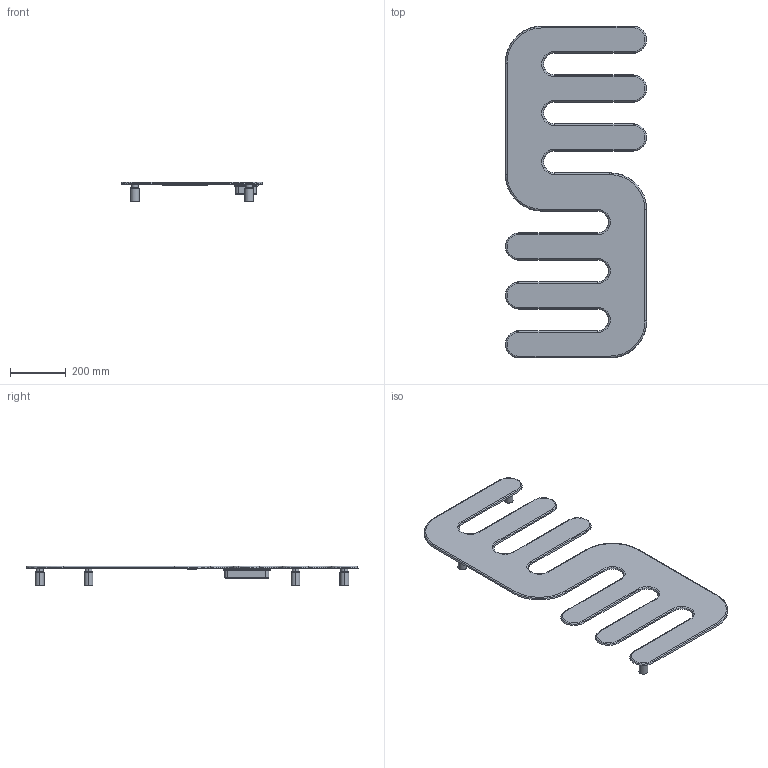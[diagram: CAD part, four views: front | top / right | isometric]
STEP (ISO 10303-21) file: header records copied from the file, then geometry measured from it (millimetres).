
FILE_DESCRIPTION((''),'2;1');
FILE_NAME('3582806100203_3D_SITO_ASM','2023-02-21T12:19:26',('PC132'),(''),'CREO PARAMETRIC BY PTC INC, 2022124','CREO PARAMETRIC BY PTC INC, 2022124','');
FILE_SCHEMA(('AUTOMOTIVE_DESIGN { 1 0 10303 214 1 1 1 1 }'));
Length unit declared in the file: millimetre
Products named in the file (2): 3582806100203_3D_SITO; 3582806100203_3D_SITO_ASM
Assembly tree (1 placements, depth 2):
  3582806100203_3D_SITO_ASM
    3582806100203_3D_SITO
Bounding box: 510 x 1196 x 70 mm (x, y, z)
Volume: 3480774.1 mm3; surface area: 906020.8 mm2
Topology: 1 solids, 1 shells, 149 faces, 340 edges, 204 vertices
Faces by surface type: cylinder 48, plane 41, cone 36, torus 24
Entity records: 7192 total; most frequent: CARTESIAN_POINT 907, DIRECTION 884, ORIENTED_EDGE 680, PRESENTATION_STYLE_ASSIGNMENT 375, STYLED_ITEM 375, CURVE_STYLE 374, EDGE_CURVE 340, AXIS2_PLACEMENT_3D 339
